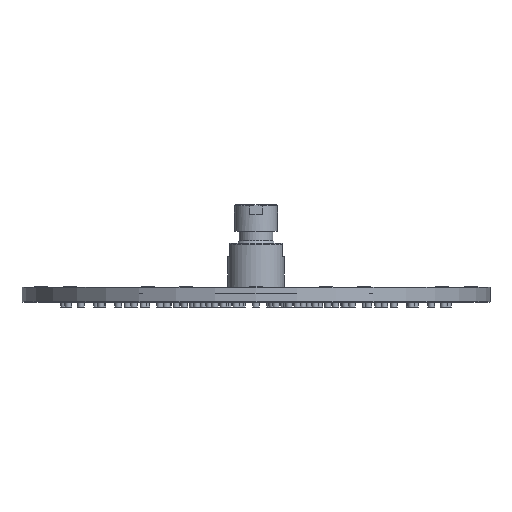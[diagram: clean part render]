
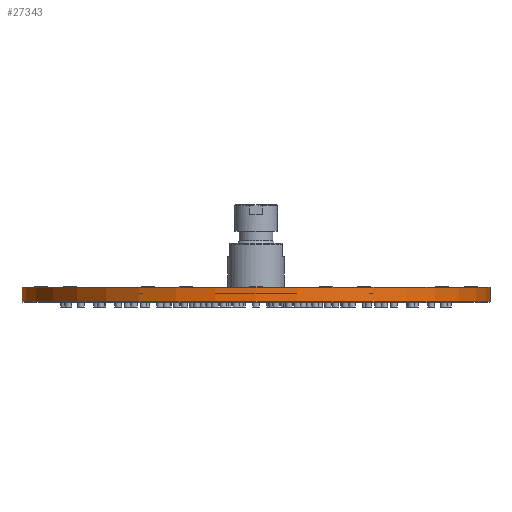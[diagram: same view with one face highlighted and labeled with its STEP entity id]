
A CAD part, front view. The second image highlights one B-rep face of the part: STEP entity #27343.
In plain terms, the highlighted cylindrical face has radius 125 mm (diameter 250 mm), a partial arc.
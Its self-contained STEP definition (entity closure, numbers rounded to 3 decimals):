
#74 = AXIS2_PLACEMENT_3D ( 'NONE', #10926, #26159, #18631 ) ;
#366 = CARTESIAN_POINT ( 'NONE',  ( 0., 0., 8. ) ) ;
#4805 = LINE ( 'NONE', #22223, #23889 ) ;
#4984 = EDGE_CURVE ( 'NONE', #20099, #21842, #9294, .T. ) ;
#5065 = DIRECTION ( 'NONE',  ( 0., 0., 1. ) ) ;
#6136 = ORIENTED_EDGE ( 'NONE', *, *, #4984, .F. ) ;
#7151 = ORIENTED_EDGE ( 'NONE', *, *, #22530, .F. ) ;
#7654 = CARTESIAN_POINT ( 'NONE',  ( -125., 0., 8. ) ) ;
#7688 = CARTESIAN_POINT ( 'NONE',  ( -125., 0., 0.5 ) ) ;
#7735 = CARTESIAN_POINT ( 'NONE',  ( 125., 0., 8. ) ) ;
#8144 = LINE ( 'NONE', #7654, #8552 ) ;
#8552 = VECTOR ( 'NONE', #25713, 1000. ) ;
#8618 = VERTEX_POINT ( 'NONE', #7688 ) ;
#8953 = EDGE_CURVE ( 'NONE', #20099, #8618, #8144, .T. ) ;
#9220 = DIRECTION ( 'NONE',  ( -1., 0., 0. ) ) ;
#9294 = CIRCLE ( 'NONE', #15712, 125. ) ;
#9397 = ORIENTED_EDGE ( 'NONE', *, *, #25323, .T. ) ;
#10926 = CARTESIAN_POINT ( 'NONE',  ( 0., 0., 0.5 ) ) ;
#11056 = VERTEX_POINT ( 'NONE', #22950 ) ;
#12037 = CARTESIAN_POINT ( 'NONE',  ( 0., 0., 8. ) ) ;
#12629 = ORIENTED_EDGE ( 'NONE', *, *, #8953, .T. ) ;
#15712 = AXIS2_PLACEMENT_3D ( 'NONE', #366, #5065, #27987 ) ;
#18631 = DIRECTION ( 'NONE',  ( 1., 0., 0. ) ) ;
#20099 = VERTEX_POINT ( 'NONE', #28211 ) ;
#21466 = CIRCLE ( 'NONE', #74, 125. ) ;
#21842 = VERTEX_POINT ( 'NONE', #7735 ) ;
#22223 = CARTESIAN_POINT ( 'NONE',  ( 125., 0., 8. ) ) ;
#22257 = DIRECTION ( 'NONE',  ( 0., 0., -1. ) ) ;
#22530 = EDGE_CURVE ( 'NONE', #21842, #11056, #4805, .T. ) ;
#22950 = CARTESIAN_POINT ( 'NONE',  ( 125., 0., 0.5 ) ) ;
#23889 = VECTOR ( 'NONE', #32431, 1000. ) ;
#25323 = EDGE_CURVE ( 'NONE', #8618, #11056, #21466, .T. ) ;
#25713 = DIRECTION ( 'NONE',  ( 0., 0., -1. ) ) ;
#26159 = DIRECTION ( 'NONE',  ( 0., 0., 1. ) ) ;
#27343 = ADVANCED_FACE ( 'NONE', ( #29951 ), #31986, .T. ) ;
#27987 = DIRECTION ( 'NONE',  ( 1., 0., 0. ) ) ;
#28211 = CARTESIAN_POINT ( 'NONE',  ( -125., 0., 8. ) ) ;
#29951 = FACE_OUTER_BOUND ( 'NONE', #32891, .T. ) ;
#31677 = AXIS2_PLACEMENT_3D ( 'NONE', #12037, #22257, #9220 ) ;
#31986 = CYLINDRICAL_SURFACE ( 'NONE', #31677, 125. ) ;
#32431 = DIRECTION ( 'NONE',  ( 0., 0., -1. ) ) ;
#32891 = EDGE_LOOP ( 'NONE', ( #7151, #6136, #12629, #9397 ) ) ;
